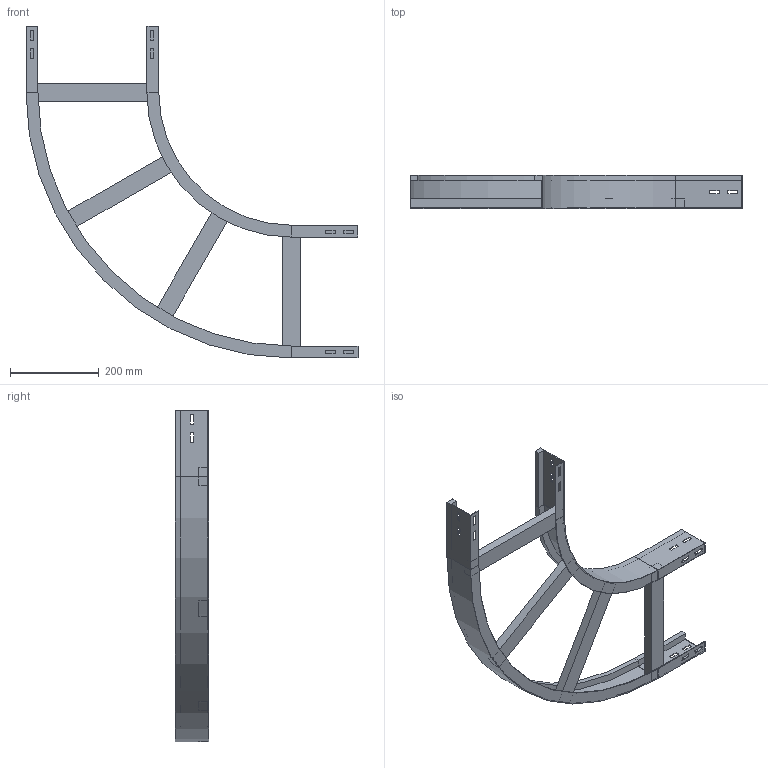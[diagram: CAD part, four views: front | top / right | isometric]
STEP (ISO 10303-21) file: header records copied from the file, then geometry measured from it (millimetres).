
FILE_DESCRIPTION (( 'STEP AP214' ), '1' );
FILE_NAME ('A2_10B3C300.step', '2025-02-21T15:26:19', ( '' ), ( '' ), 'SwSTEP 2.0', 'SolidWorks 2023', '' );
FILE_SCHEMA (( 'AUTOMOTIVE_DESIGN' ));
Length unit declared in the file: millimetre
Products named in the file (4): A2_LONGH.INTERNO 90°_H75_R300; A2_10B3C300; A2_LONGH.ESTERNO 90°_H75_R300+300; TRAVERSINO_300
Assembly tree (6 placements, depth 2):
  A2_10B3C300
    A2_LONGH.INTERNO 90°_H75_R300
    A2_LONGH.ESTERNO 90°_H75_R300+300
    TRAVERSINO_300  x4
Bounding box: 750 x 75 x 750 mm (x, y, z)
Volume: 1743488.9 mm3; surface area: 623477.1 mm2
Topology: 6 solids, 6 shells, 140 faces, 352 edges, 224 vertices
Faces by surface type: plane 132, cylinder 8
Entity records: 3829 total; most frequent: CARTESIAN_POINT 647, ORIENTED_EDGE 632, DIRECTION 594, EDGE_CURVE 316, VECTOR 300, LINE 300, VERTEX_POINT 200, EDGE_LOOP 154
